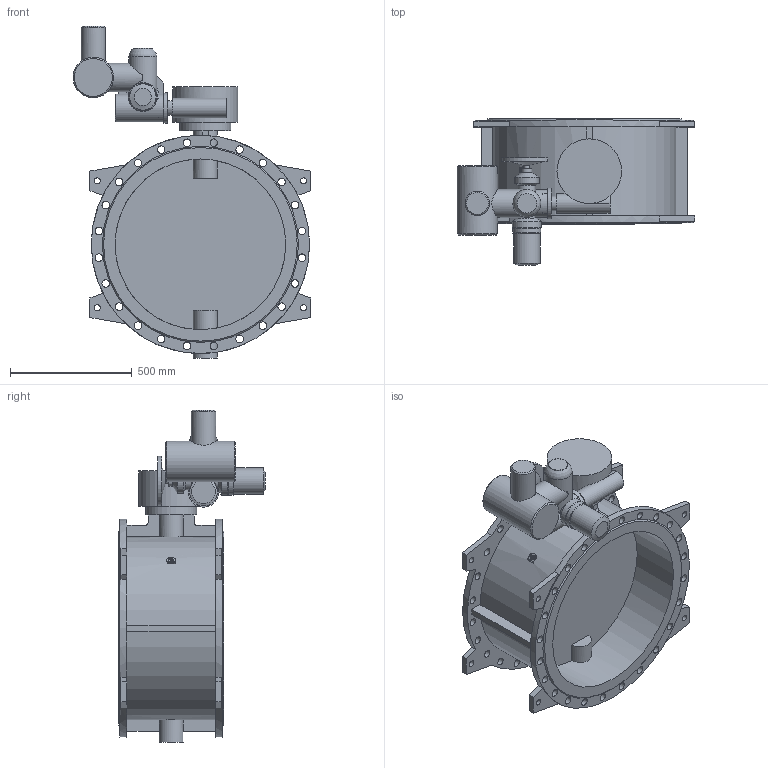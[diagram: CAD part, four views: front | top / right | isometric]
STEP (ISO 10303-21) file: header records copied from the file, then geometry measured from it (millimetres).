
FILE_DESCRIPTION(('STEP AP203'), '1');
FILE_NAME('Çàòâîð 023F.Z DN700 PN10 + ðåäóêòîð + ÌÒ903.À07 ñ ÁÓ', '', ('UNSPECIFIED'), ('UNSPECIFIED'), 'ASCON STEP Converter 1.6', 'ASCON Math Kernel', '');
FILE_SCHEMA(('CONFIG_CONTROL_DESIGN'));
Length unit declared in the file: millimetre
Bounding box: 975 x 600.5 x 1361 mm (x, y, z)
Volume: 85988393.9 mm3; surface area: 4767980.7 mm2
Topology: 1 solids, 1 shells, 244 faces, 604 edges, 398 vertices
Faces by surface type: cylinder 119, plane 111, cone 13, torus 1
Full cylindrical faces by diameter (mm): 8.5 x4, 12 x4, 18.5 x4, 23 x4, 24 x1, 25 x8, 31 x48, 42 x1, 60 x1, 66 x1, 72 x1, 80 x2, 100 x3, 108 x1, 114 x2, 115 x1, 116 x1, 119 x1, 125 x1, 166 x1, 210 x1, 265 x1, 700 x2, 895 x2
Entity records: 11100 total; most frequent: CARTESIAN_POINT 3401, DIRECTION 1187, ORIENTED_EDGE 980, EDGE_LOOP 503, AXIS2_PLACEMENT_3D 498, EDGE_CURVE 490, VERTEX_POINT 397, FACE_BOUND 296
